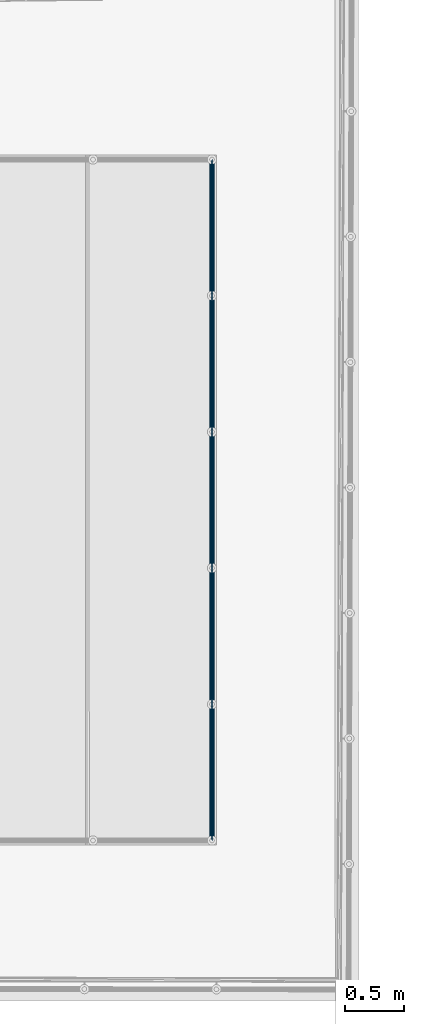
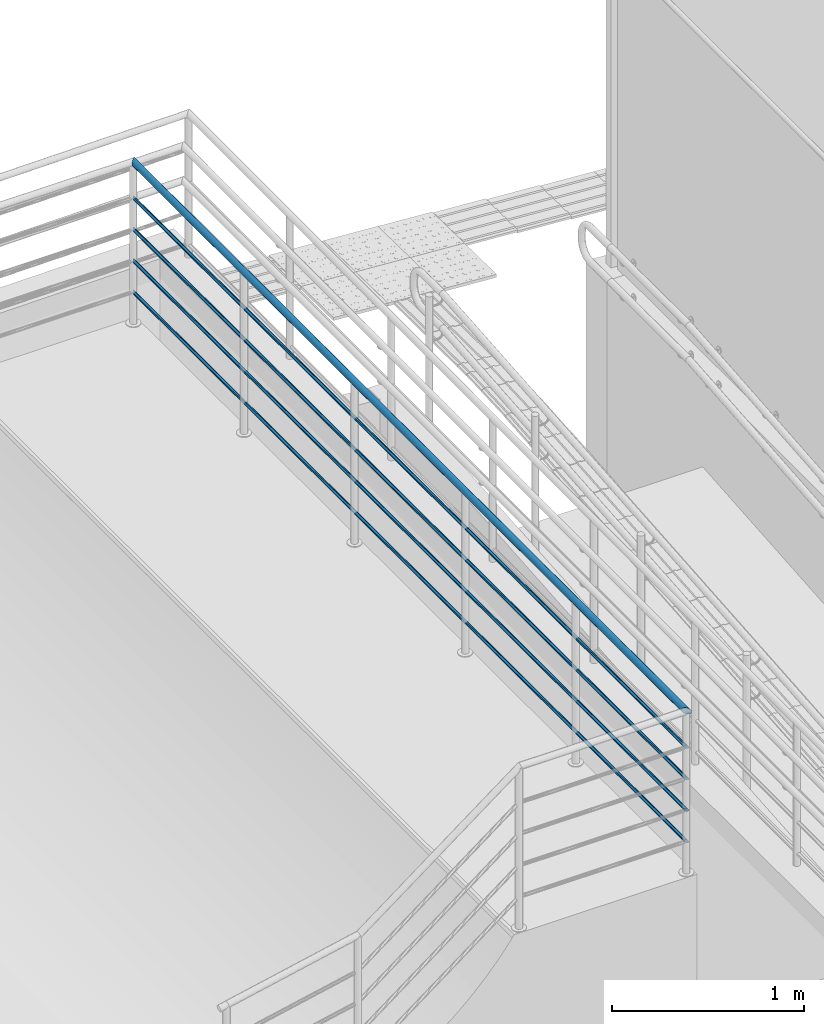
# One storey, part 46 of 237: 6 building element parts, 1 element without a shape of its own.
"""IFC2X3 building model written with IfcOpenShell, lengths in millimetres."""

from ifc_helpers import new_model, entity, si_unit, converted_unit, derived_unit, money_unit, direction, frame, origin_with_axes, place, context, subcontext, project, spatial, faceted_brep, material, type_object, element, aggregate, save


model = new_model("IFC2X3")

# Units and contexts
model_context = context("Model", 3, precision=0.01, world=origin_with_axes(), true_north=direction((0.0, 1.0)))
body_context = subcontext(model_context, "Body", "Model", "MODEL_VIEW")
ifc_project = project(units=[si_unit("LENGTHUNIT", "METRE", prefix="MILLI"), si_unit("AREAUNIT", "SQUARE_METRE"), si_unit("VOLUMEUNIT", "CUBIC_METRE"), converted_unit("PLANEANGLEUNIT", "DEGREE", entity("IfcPlaneAngleMeasure", 0.0174532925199), si_unit("PLANEANGLEUNIT", "RADIAN"), dimensions=[0, 0, 0, 0, 0, 0, 0]), money_unit("USD"), converted_unit("TIMEUNIT", "Year", entity("IfcTimeMeasure", 31556926.0), si_unit("TIMEUNIT", "SECOND"), dimensions=[0, 0, 1, 0, 0, 0, 0]), si_unit("MASSUNIT", "GRAM", prefix="KILO"), si_unit("THERMODYNAMICTEMPERATUREUNIT", "DEGREE_CELSIUS"), si_unit("LUMINOUSINTENSITYUNIT", "LUMEN"), si_unit("ENERGYUNIT", "JOULE", prefix="MEGA"), derived_unit("THERMALCONDUCTANCEUNIT", [(si_unit("POWERUNIT", "WATT"), 1), (si_unit("LENGTHUNIT", "METRE"), -1), (si_unit("THERMODYNAMICTEMPERATUREUNIT", "KELVIN"), -1)]), derived_unit("SPECIFICHEATCAPACITYUNIT", [(si_unit("ENERGYUNIT", "JOULE"), 1), (si_unit("MASSUNIT", "GRAM", prefix="KILO"), -1), (si_unit("THERMODYNAMICTEMPERATUREUNIT", "KELVIN"), -1)]), derived_unit("MASSDENSITYUNIT", [(si_unit("MASSUNIT", "GRAM", prefix="KILO"), 1), (si_unit("VOLUMEUNIT", "CUBIC_METRE"), -1)])], contexts=[model_context])

# Site, building, storey
site_placement = place(None, origin_with_axes())
site = spatial("IfcSite", under=ifc_project, at=site_placement, Name="Local", CompositionType="ELEMENT")
building_placement = place(site_placement, origin_with_axes())
building = spatial("IfcBuilding", under=site, at=building_placement, Name="Construção", CompositionType="ELEMENT")
storey_placement = place(building_placement, origin_with_axes())
storey = spatial("IfcBuildingStorey", under=building, at=storey_placement, Name="Pavimento Térreo", CompositionType="ELEMENT", Elevation=0.0)

# Railing, building element parts
railing_type = type_object("IfcRailingType", Name="Tipo de Guarda-Corpo", PredefinedType="NOTDEFINED")
railing_placement = place(storey_placement, frame((61612.4440926, 28006.4497128, -1265.99547451), z_axis=(0.0, 0.0, 1.0), x_axis=(-1.0, 0.0, 0.0)))
railing = element("IfcRailing", 1, at=railing_placement, inside=storey, type_object=railing_type, Name="Guarda-Corpo - 001", PredefinedType="NOTDEFINED")
ifc_material = material(Name="Aço - Inoxidável")
building_element_part_1_placement = place(railing_placement, origin_with_axes())
building_element_part_1 = element("IfcBuildingElementPart", 2, at=building_element_part_1_placement, material=ifc_material, Name="Aço - Inoxidável", context=body_context, shape_type="Brep", body=[
    faceted_brep([(-2790.00019056, -98.4865411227, 1938.88727796), (-2790.30403551, -98.182696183, 1942.36024151), (-2790.3038469, -5828.77972828, 1942.36024151), (-2790.00000198, -5828.47582909, 1938.88727796), (-2790.30403551, -98.182696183, 1935.41431441), (-2791.20633818, -97.2803935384, 1932.04687509), (-2792.67968257, -95.8070491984, 1928.88727796), (-2794.67930185, -93.8074299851, 1926.03152577), (-2797.1444386, -91.3422933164, 1923.5663891), (-2800.00019088, -88.4865411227, 1921.56676988), (-2803.15978812, -85.3269439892, 1920.09342554), (-2806.52722755, -81.959504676, 1919.1911229), (-2810.00019121, -78.4865411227, 1918.88727796), (-2813.47315488, -75.0135775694, 1919.1911229), (-2816.84059431, -71.6461382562, 1920.09342554), (-2820.00019154, -68.4865411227, 1921.56676988), (-2822.85594383, -65.630788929, 1923.5663891), (-2825.32108058, -63.1656522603, 1926.03152577), (-2827.32069986, -61.166033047, 1928.88727796), (-2828.79404425, -59.692688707, 1932.04687509), (-2829.69634692, -58.7903860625, 1935.41431441), (-2830.00019187, -58.4865411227, 1938.88727796), (-2829.69634692, -58.7903860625, 1942.36024151), (-2828.79404425, -59.692688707, 1945.72768083), (-2827.32069986, -61.166033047, 1948.88727796), (-2825.32108058, -63.1656522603, 1951.74303015), (-2822.85594383, -65.630788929, 1954.20816682), (-2820.00019154, -68.4865411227, 1956.20778604), (-2816.84059431, -71.6461382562, 1957.68113038), (-2813.47315488, -75.0135775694, 1958.58343302), (-2810.00019121, -78.4865411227, 1958.88727796), (-2806.52722755, -81.959504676, 1958.58343302), (-2803.15978812, -85.3269439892, 1957.68113038), (-2800.00019088, -88.4865411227, 1956.20778604), (-2797.1444386, -91.3422933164, 1954.20816682), (-2794.67930185, -93.8074299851, 1951.74303015), (-2792.67968257, -95.8070491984, 1948.88727796), (-2791.20633818, -97.2803935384, 1945.72768083), (-2791.20614952, -5829.68219202, 1945.72768083), (-2792.67949381, -5831.1557994, 1948.88727796), (-2794.67911296, -5833.15577561, 1951.74303015), (-2797.14424955, -5835.62135239, 1954.20816682), (-2800.00000165, -5838.47761443, 1956.20778604), (-2803.15959868, -5841.63777566, 1957.68113038), (-2806.52703788, -5845.00581618, 1958.58343302), (-2810.00000132, -5848.47939977, 1958.88727796), (-2813.47296476, -5851.95298337, 1958.58343302), (-2816.84040396, -5855.32102388, 1957.68113038), (-2820.00000099, -5858.48118511, 1956.20778604), (-2822.85575309, -5861.33744715, 1954.20816682), (-2825.32088967, -5863.80302393, 1951.74303015), (-2827.32050882, -5865.80300014, 1948.88727796), (-2828.79385311, -5867.27660752, 1945.72768083), (-2829.69615573, -5868.17907126, 1942.36024151), (-2830.00000066, -5868.48297045, 1938.88727796), (-2829.69615573, -5868.17907126, 1935.41431441), (-2828.79385311, -5867.27660752, 1932.04687509), (-2827.32050882, -5865.80300014, 1928.88727796), (-2825.32088967, -5863.80302393, 1926.03152577), (-2822.85575309, -5861.33744715, 1923.5663891), (-2820.00000099, -5858.48118511, 1921.56676988), (-2816.84040396, -5855.32102388, 1920.09342554), (-2813.47296476, -5851.95298337, 1919.1911229), (-2810.00000132, -5848.47939977, 1918.88727796), (-2806.52703788, -5845.00581618, 1919.1911229), (-2803.15959868, -5841.63777566, 1920.09342554), (-2800.00000165, -5838.47761443, 1921.56676988), (-2797.14424955, -5835.62135239, 1923.5663891), (-2794.67911296, -5833.15577561, 1926.03152577), (-2792.67949381, -5831.1557994, 1928.88727796), (-2791.20614952, -5829.68219202, 1932.04687509), (-2790.3038469, -5828.77972828, 1935.41431441)], [[[0, 1, 2, 3]], [[0, 4, 5, 6, 7, 8, 9, 10, 11, 12, 13, 14, 15, 16, 17, 18, 19, 20, 21, 22, 23, 24, 25, 26, 27, 28, 29, 30, 31, 32, 33, 34, 35, 36, 37, 1]], [[1, 37, 38, 2]], [[3, 2, 38, 39, 40, 41, 42, 43, 44, 45, 46, 47, 48, 49, 50, 51, 52, 53, 54, 55, 56, 57, 58, 59, 60, 61, 62, 63, 64, 65, 66, 67, 68, 69, 70, 71]], [[4, 0, 3, 71]], [[5, 4, 71, 70]], [[6, 5, 70, 69]], [[7, 6, 69, 68]], [[8, 7, 68, 67]], [[9, 8, 67, 66]], [[10, 9, 66, 65]], [[11, 10, 65, 64]], [[12, 11, 64, 63]], [[13, 12, 63, 62]], [[14, 13, 62, 61]], [[15, 14, 61, 60]], [[16, 15, 60, 59]], [[17, 16, 59, 58]], [[18, 17, 58, 57]], [[19, 18, 57, 56]], [[20, 19, 56, 55]], [[21, 20, 55, 54]], [[22, 21, 54, 53]], [[23, 22, 53, 52]], [[24, 23, 52, 51]], [[25, 24, 51, 50]], [[26, 25, 50, 49]], [[27, 26, 49, 48]], [[28, 27, 48, 47]], [[29, 28, 47, 46]], [[30, 29, 46, 45]], [[31, 30, 45, 44]], [[32, 31, 44, 43]], [[33, 32, 43, 42]], [[34, 33, 42, 41]], [[35, 34, 41, 40]], [[36, 35, 40, 39]], [[37, 36, 39, 38]]]),
])
building_element_part_2_placement = place(railing_placement, origin_with_axes())
building_element_part_2 = element("IfcBuildingElementPart", 3, at=building_element_part_2_placement, material=ifc_material, Name="Aço - Inoxidável", context=body_context, shape_type="Brep", body=[
    faceted_brep([(-2800.00019088, -88.4865411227, 1108.88727796), (-2800.15211336, -88.3346186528, 1110.62375974), (-2800.15192411, -5838.62956403, 1110.62375974), (-2800.00000165, -5838.47761443, 1108.88727796), (-2800.15211336, -88.3346186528, 1107.15079618), (-2800.6032647, -87.8834673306, 1105.46707653), (-2801.33993689, -87.1467951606, 1103.88727796), (-2802.33974653, -86.1469855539, 1102.45940186), (-2803.57231491, -84.9144172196, 1101.22683353), (-2805.00019105, -83.4865411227, 1100.22702392), (-2806.57998967, -81.906742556, 1099.49035175), (-2808.26370938, -80.2230228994, 1099.03920043), (-2810.00019121, -78.4865411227, 1098.88727796), (-2811.73667305, -76.750059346, 1099.03920043), (-2813.42039276, -75.0663396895, 1099.49035175), (-2815.00019138, -73.4865411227, 1100.22702392), (-2816.42806752, -72.0586650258, 1101.22683353), (-2817.6606359, -70.8260966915, 1102.45940186), (-2818.66044554, -69.8262870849, 1103.88727796), (-2819.39711773, -69.0896149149, 1105.46707653), (-2819.84826907, -68.6384635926, 1107.15079618), (-2820.00019154, -68.4865411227, 1108.88727796), (-2819.84826907, -68.6384635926, 1110.62375974), (-2819.39711773, -69.0896149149, 1112.30747939), (-2818.66044554, -69.8262870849, 1113.88727796), (-2817.6606359, -70.8260966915, 1115.31515406), (-2816.42806752, -72.0586650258, 1116.54772239), (-2815.00019138, -73.4865411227, 1117.547532), (-2813.42039276, -75.0663396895, 1118.28420417), (-2811.73667305, -76.750059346, 1118.73535549), (-2810.00019121, -78.4865411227, 1118.88727796), (-2808.26370938, -80.2230228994, 1118.73535549), (-2806.57998967, -81.906742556, 1118.28420417), (-2805.00019105, -83.4865411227, 1117.547532), (-2803.57231491, -84.9144172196, 1116.54772239), (-2802.33974653, -86.1469855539, 1115.31515406), (-2801.33993689, -87.1467951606, 1113.88727796), (-2800.6032647, -87.8834673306, 1112.30747939), (-2800.60307542, -5839.08079589, 1112.30747939), (-2801.33974756, -5839.81759958, 1113.88727796), (-2802.33955714, -5840.81758769, 1115.31515406), (-2803.57212543, -5842.05037608, 1116.54772239), (-2805.00000148, -5843.4785071, 1117.547532), (-2806.5798, -5845.05858772, 1118.28420417), (-2808.2635196, -5846.74260797, 1118.73535549), (-2810.00000132, -5848.47939977, 1118.88727796), (-2811.73648304, -5850.21619157, 1118.73535549), (-2813.42020264, -5851.90021183, 1118.28420417), (-2815.00000115, -5853.48029244, 1117.547532), (-2816.4278772, -5854.90842346, 1116.54772239), (-2817.6604455, -5856.14121185, 1115.31515406), (-2818.66025507, -5857.14119996, 1113.88727796), (-2819.39692722, -5857.87800365, 1112.30747939), (-2819.84807852, -5858.32923552, 1110.62375974), (-2820.00000099, -5858.48118511, 1108.88727796), (-2819.84807852, -5858.32923552, 1107.15079618), (-2819.39692722, -5857.87800365, 1105.46707653), (-2818.66025507, -5857.14119996, 1103.88727796), (-2817.6604455, -5856.14121185, 1102.45940186), (-2816.4278772, -5854.90842346, 1101.22683353), (-2815.00000115, -5853.48029244, 1100.22702392), (-2813.42020264, -5851.90021183, 1099.49035175), (-2811.73648304, -5850.21619157, 1099.03920043), (-2810.00000132, -5848.47939977, 1098.88727796), (-2808.2635196, -5846.74260797, 1099.03920043), (-2806.5798, -5845.05858772, 1099.49035175), (-2805.00000148, -5843.4785071, 1100.22702392), (-2803.57212543, -5842.05037608, 1101.22683353), (-2802.33955714, -5840.81758769, 1102.45940186), (-2801.33974756, -5839.81759958, 1103.88727796), (-2800.60307542, -5839.08079589, 1105.46707653), (-2800.15192411, -5838.62956403, 1107.15079618)], [[[0, 1, 2, 3]], [[0, 4, 5, 6, 7, 8, 9, 10, 11, 12, 13, 14, 15, 16, 17, 18, 19, 20, 21, 22, 23, 24, 25, 26, 27, 28, 29, 30, 31, 32, 33, 34, 35, 36, 37, 1]], [[1, 37, 38, 2]], [[3, 2, 38, 39, 40, 41, 42, 43, 44, 45, 46, 47, 48, 49, 50, 51, 52, 53, 54, 55, 56, 57, 58, 59, 60, 61, 62, 63, 64, 65, 66, 67, 68, 69, 70, 71]], [[4, 0, 3, 71]], [[5, 4, 71, 70]], [[6, 5, 70, 69]], [[7, 6, 69, 68]], [[8, 7, 68, 67]], [[9, 8, 67, 66]], [[10, 9, 66, 65]], [[11, 10, 65, 64]], [[12, 11, 64, 63]], [[13, 12, 63, 62]], [[14, 13, 62, 61]], [[15, 14, 61, 60]], [[16, 15, 60, 59]], [[17, 16, 59, 58]], [[18, 17, 58, 57]], [[19, 18, 57, 56]], [[20, 19, 56, 55]], [[21, 20, 55, 54]], [[22, 21, 54, 53]], [[23, 22, 53, 52]], [[24, 23, 52, 51]], [[25, 24, 51, 50]], [[26, 25, 50, 49]], [[27, 26, 49, 48]], [[28, 27, 48, 47]], [[29, 28, 47, 46]], [[30, 29, 46, 45]], [[31, 30, 45, 44]], [[32, 31, 44, 43]], [[33, 32, 43, 42]], [[34, 33, 42, 41]], [[35, 34, 41, 40]], [[36, 35, 40, 39]], [[37, 36, 39, 38]]]),
])
building_element_part_3_placement = place(railing_placement, origin_with_axes())
building_element_part_3 = element("IfcBuildingElementPart", 4, at=building_element_part_3_placement, material=ifc_material, Name="Aço - Inoxidável", context=body_context, shape_type="Brep", body=[
    faceted_brep([(-2800.00019088, -88.4865411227, 1308.88727796), (-2800.15211336, -88.3346186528, 1310.62375974), (-2800.15192411, -5838.62956403, 1310.62375974), (-2800.00000165, -5838.47761443, 1308.88727796), (-2800.15211336, -88.3346186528, 1307.15079618), (-2800.6032647, -87.8834673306, 1305.46707653), (-2801.33993689, -87.1467951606, 1303.88727796), (-2802.33974653, -86.1469855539, 1302.45940186), (-2803.57231491, -84.9144172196, 1301.22683353), (-2805.00019105, -83.4865411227, 1300.22702392), (-2806.57998967, -81.906742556, 1299.49035175), (-2808.26370938, -80.2230228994, 1299.03920043), (-2810.00019121, -78.4865411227, 1298.88727796), (-2811.73667305, -76.750059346, 1299.03920043), (-2813.42039276, -75.0663396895, 1299.49035175), (-2815.00019138, -73.4865411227, 1300.22702392), (-2816.42806752, -72.0586650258, 1301.22683353), (-2817.6606359, -70.8260966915, 1302.45940186), (-2818.66044554, -69.8262870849, 1303.88727796), (-2819.39711773, -69.0896149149, 1305.46707653), (-2819.84826907, -68.6384635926, 1307.15079618), (-2820.00019154, -68.4865411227, 1308.88727796), (-2819.84826907, -68.6384635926, 1310.62375974), (-2819.39711773, -69.0896149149, 1312.30747939), (-2818.66044554, -69.8262870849, 1313.88727796), (-2817.6606359, -70.8260966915, 1315.31515406), (-2816.42806752, -72.0586650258, 1316.54772239), (-2815.00019138, -73.4865411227, 1317.547532), (-2813.42039276, -75.0663396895, 1318.28420417), (-2811.73667305, -76.750059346, 1318.73535549), (-2810.00019121, -78.4865411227, 1318.88727796), (-2808.26370938, -80.2230228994, 1318.73535549), (-2806.57998967, -81.906742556, 1318.28420417), (-2805.00019105, -83.4865411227, 1317.547532), (-2803.57231491, -84.9144172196, 1316.54772239), (-2802.33974653, -86.1469855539, 1315.31515406), (-2801.33993689, -87.1467951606, 1313.88727796), (-2800.6032647, -87.8834673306, 1312.30747939), (-2800.60307542, -5839.08079589, 1312.30747939), (-2801.33974756, -5839.81759958, 1313.88727796), (-2802.33955714, -5840.81758769, 1315.31515406), (-2803.57212543, -5842.05037608, 1316.54772239), (-2805.00000148, -5843.4785071, 1317.547532), (-2806.5798, -5845.05858772, 1318.28420417), (-2808.2635196, -5846.74260797, 1318.73535549), (-2810.00000132, -5848.47939977, 1318.88727796), (-2811.73648304, -5850.21619157, 1318.73535549), (-2813.42020264, -5851.90021183, 1318.28420417), (-2815.00000115, -5853.48029244, 1317.547532), (-2816.4278772, -5854.90842346, 1316.54772239), (-2817.6604455, -5856.14121185, 1315.31515406), (-2818.66025507, -5857.14119996, 1313.88727796), (-2819.39692722, -5857.87800365, 1312.30747939), (-2819.84807852, -5858.32923552, 1310.62375974), (-2820.00000099, -5858.48118511, 1308.88727796), (-2819.84807852, -5858.32923552, 1307.15079618), (-2819.39692722, -5857.87800365, 1305.46707653), (-2818.66025507, -5857.14119996, 1303.88727796), (-2817.6604455, -5856.14121185, 1302.45940186), (-2816.4278772, -5854.90842346, 1301.22683353), (-2815.00000115, -5853.48029244, 1300.22702392), (-2813.42020264, -5851.90021183, 1299.49035175), (-2811.73648304, -5850.21619157, 1299.03920043), (-2810.00000132, -5848.47939977, 1298.88727796), (-2808.2635196, -5846.74260797, 1299.03920043), (-2806.5798, -5845.05858772, 1299.49035175), (-2805.00000148, -5843.4785071, 1300.22702392), (-2803.57212543, -5842.05037608, 1301.22683353), (-2802.33955714, -5840.81758769, 1302.45940186), (-2801.33974756, -5839.81759958, 1303.88727796), (-2800.60307542, -5839.08079589, 1305.46707653), (-2800.15192411, -5838.62956403, 1307.15079618)], [[[0, 1, 2, 3]], [[0, 4, 5, 6, 7, 8, 9, 10, 11, 12, 13, 14, 15, 16, 17, 18, 19, 20, 21, 22, 23, 24, 25, 26, 27, 28, 29, 30, 31, 32, 33, 34, 35, 36, 37, 1]], [[1, 37, 38, 2]], [[3, 2, 38, 39, 40, 41, 42, 43, 44, 45, 46, 47, 48, 49, 50, 51, 52, 53, 54, 55, 56, 57, 58, 59, 60, 61, 62, 63, 64, 65, 66, 67, 68, 69, 70, 71]], [[4, 0, 3, 71]], [[5, 4, 71, 70]], [[6, 5, 70, 69]], [[7, 6, 69, 68]], [[8, 7, 68, 67]], [[9, 8, 67, 66]], [[10, 9, 66, 65]], [[11, 10, 65, 64]], [[12, 11, 64, 63]], [[13, 12, 63, 62]], [[14, 13, 62, 61]], [[15, 14, 61, 60]], [[16, 15, 60, 59]], [[17, 16, 59, 58]], [[18, 17, 58, 57]], [[19, 18, 57, 56]], [[20, 19, 56, 55]], [[21, 20, 55, 54]], [[22, 21, 54, 53]], [[23, 22, 53, 52]], [[24, 23, 52, 51]], [[25, 24, 51, 50]], [[26, 25, 50, 49]], [[27, 26, 49, 48]], [[28, 27, 48, 47]], [[29, 28, 47, 46]], [[30, 29, 46, 45]], [[31, 30, 45, 44]], [[32, 31, 44, 43]], [[33, 32, 43, 42]], [[34, 33, 42, 41]], [[35, 34, 41, 40]], [[36, 35, 40, 39]], [[37, 36, 39, 38]]]),
])
building_element_part_4_placement = place(railing_placement, origin_with_axes())
building_element_part_4 = element("IfcBuildingElementPart", 5, at=building_element_part_4_placement, material=ifc_material, Name="Aço - Inoxidável", context=body_context, shape_type="Brep", body=[
    faceted_brep([(-2800.00019088, -88.4865411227, 1308.88727796), (-2800.15211336, -88.3346186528, 1310.62375974), (-2800.15192411, -5838.62956403, 1310.62375974), (-2800.00000165, -5838.47761443, 1308.88727796), (-2800.15211336, -88.3346186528, 1307.15079618), (-2800.6032647, -87.8834673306, 1305.46707653), (-2801.33993689, -87.1467951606, 1303.88727796), (-2802.33974653, -86.1469855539, 1302.45940186), (-2803.57231491, -84.9144172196, 1301.22683353), (-2805.00019105, -83.4865411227, 1300.22702392), (-2806.57998967, -81.906742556, 1299.49035175), (-2808.26370938, -80.2230228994, 1299.03920043), (-2810.00019121, -78.4865411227, 1298.88727796), (-2811.73667305, -76.750059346, 1299.03920043), (-2813.42039276, -75.0663396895, 1299.49035175), (-2815.00019138, -73.4865411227, 1300.22702392), (-2816.42806752, -72.0586650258, 1301.22683353), (-2817.6606359, -70.8260966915, 1302.45940186), (-2818.66044554, -69.8262870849, 1303.88727796), (-2819.39711773, -69.0896149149, 1305.46707653), (-2819.84826907, -68.6384635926, 1307.15079618), (-2820.00019154, -68.4865411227, 1308.88727796), (-2819.84826907, -68.6384635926, 1310.62375974), (-2819.39711773, -69.0896149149, 1312.30747939), (-2818.66044554, -69.8262870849, 1313.88727796), (-2817.6606359, -70.8260966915, 1315.31515406), (-2816.42806752, -72.0586650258, 1316.54772239), (-2815.00019138, -73.4865411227, 1317.547532), (-2813.42039276, -75.0663396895, 1318.28420417), (-2811.73667305, -76.750059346, 1318.73535549), (-2810.00019121, -78.4865411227, 1318.88727796), (-2808.26370938, -80.2230228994, 1318.73535549), (-2806.57998967, -81.906742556, 1318.28420417), (-2805.00019105, -83.4865411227, 1317.547532), (-2803.57231491, -84.9144172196, 1316.54772239), (-2802.33974653, -86.1469855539, 1315.31515406), (-2801.33993689, -87.1467951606, 1313.88727796), (-2800.6032647, -87.8834673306, 1312.30747939), (-2800.60307542, -5839.08079589, 1312.30747939), (-2801.33974756, -5839.81759958, 1313.88727796), (-2802.33955714, -5840.81758769, 1315.31515406), (-2803.57212543, -5842.05037608, 1316.54772239), (-2805.00000148, -5843.4785071, 1317.547532), (-2806.5798, -5845.05858772, 1318.28420417), (-2808.2635196, -5846.74260797, 1318.73535549), (-2810.00000132, -5848.47939977, 1318.88727796), (-2811.73648304, -5850.21619157, 1318.73535549), (-2813.42020264, -5851.90021183, 1318.28420417), (-2815.00000115, -5853.48029244, 1317.547532), (-2816.4278772, -5854.90842346, 1316.54772239), (-2817.6604455, -5856.14121185, 1315.31515406), (-2818.66025507, -5857.14119996, 1313.88727796), (-2819.39692722, -5857.87800365, 1312.30747939), (-2819.84807852, -5858.32923552, 1310.62375974), (-2820.00000099, -5858.48118511, 1308.88727796), (-2819.84807852, -5858.32923552, 1307.15079618), (-2819.39692722, -5857.87800365, 1305.46707653), (-2818.66025507, -5857.14119996, 1303.88727796), (-2817.6604455, -5856.14121185, 1302.45940186), (-2816.4278772, -5854.90842346, 1301.22683353), (-2815.00000115, -5853.48029244, 1300.22702392), (-2813.42020264, -5851.90021183, 1299.49035175), (-2811.73648304, -5850.21619157, 1299.03920043), (-2810.00000132, -5848.47939977, 1298.88727796), (-2808.2635196, -5846.74260797, 1299.03920043), (-2806.5798, -5845.05858772, 1299.49035175), (-2805.00000148, -5843.4785071, 1300.22702392), (-2803.57212543, -5842.05037608, 1301.22683353), (-2802.33955714, -5840.81758769, 1302.45940186), (-2801.33974756, -5839.81759958, 1303.88727796), (-2800.60307542, -5839.08079589, 1305.46707653), (-2800.15192411, -5838.62956403, 1307.15079618)], [[[0, 1, 2, 3]], [[0, 4, 5, 6, 7, 8, 9, 10, 11, 12, 13, 14, 15, 16, 17, 18, 19, 20, 21, 22, 23, 24, 25, 26, 27, 28, 29, 30, 31, 32, 33, 34, 35, 36, 37, 1]], [[1, 37, 38, 2]], [[3, 2, 38, 39, 40, 41, 42, 43, 44, 45, 46, 47, 48, 49, 50, 51, 52, 53, 54, 55, 56, 57, 58, 59, 60, 61, 62, 63, 64, 65, 66, 67, 68, 69, 70, 71]], [[4, 0, 3, 71]], [[5, 4, 71, 70]], [[6, 5, 70, 69]], [[7, 6, 69, 68]], [[8, 7, 68, 67]], [[9, 8, 67, 66]], [[10, 9, 66, 65]], [[11, 10, 65, 64]], [[12, 11, 64, 63]], [[13, 12, 63, 62]], [[14, 13, 62, 61]], [[15, 14, 61, 60]], [[16, 15, 60, 59]], [[17, 16, 59, 58]], [[18, 17, 58, 57]], [[19, 18, 57, 56]], [[20, 19, 56, 55]], [[21, 20, 55, 54]], [[22, 21, 54, 53]], [[23, 22, 53, 52]], [[24, 23, 52, 51]], [[25, 24, 51, 50]], [[26, 25, 50, 49]], [[27, 26, 49, 48]], [[28, 27, 48, 47]], [[29, 28, 47, 46]], [[30, 29, 46, 45]], [[31, 30, 45, 44]], [[32, 31, 44, 43]], [[33, 32, 43, 42]], [[34, 33, 42, 41]], [[35, 34, 41, 40]], [[36, 35, 40, 39]], [[37, 36, 39, 38]]]),
])
building_element_part_5_placement = place(railing_placement, origin_with_axes())
building_element_part_5 = element("IfcBuildingElementPart", 6, at=building_element_part_5_placement, material=ifc_material, Name="Aço - Inoxidável", context=body_context, shape_type="Brep", body=[
    faceted_brep([(-2800.00019088, -88.4865411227, 1508.88727796), (-2800.15211336, -88.3346186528, 1510.62375974), (-2800.15192411, -5838.62956403, 1510.62375974), (-2800.00000165, -5838.47761443, 1508.88727796), (-2800.15211336, -88.3346186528, 1507.15079618), (-2800.6032647, -87.8834673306, 1505.46707653), (-2801.33993689, -87.1467951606, 1503.88727796), (-2802.33974653, -86.1469855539, 1502.45940186), (-2803.57231491, -84.9144172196, 1501.22683353), (-2805.00019105, -83.4865411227, 1500.22702392), (-2806.57998967, -81.906742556, 1499.49035175), (-2808.26370938, -80.2230228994, 1499.03920043), (-2810.00019121, -78.4865411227, 1498.88727796), (-2811.73667305, -76.750059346, 1499.03920043), (-2813.42039276, -75.0663396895, 1499.49035175), (-2815.00019138, -73.4865411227, 1500.22702392), (-2816.42806752, -72.0586650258, 1501.22683353), (-2817.6606359, -70.8260966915, 1502.45940186), (-2818.66044554, -69.8262870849, 1503.88727796), (-2819.39711773, -69.0896149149, 1505.46707653), (-2819.84826907, -68.6384635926, 1507.15079618), (-2820.00019154, -68.4865411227, 1508.88727796), (-2819.84826907, -68.6384635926, 1510.62375974), (-2819.39711773, -69.0896149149, 1512.30747939), (-2818.66044554, -69.8262870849, 1513.88727796), (-2817.6606359, -70.8260966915, 1515.31515406), (-2816.42806752, -72.0586650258, 1516.54772239), (-2815.00019138, -73.4865411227, 1517.547532), (-2813.42039276, -75.0663396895, 1518.28420417), (-2811.73667305, -76.750059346, 1518.73535549), (-2810.00019121, -78.4865411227, 1518.88727796), (-2808.26370938, -80.2230228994, 1518.73535549), (-2806.57998967, -81.906742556, 1518.28420417), (-2805.00019105, -83.4865411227, 1517.547532), (-2803.57231491, -84.9144172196, 1516.54772239), (-2802.33974653, -86.1469855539, 1515.31515406), (-2801.33993689, -87.1467951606, 1513.88727796), (-2800.6032647, -87.8834673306, 1512.30747939), (-2800.60307542, -5839.08079589, 1512.30747939), (-2801.33974756, -5839.81759958, 1513.88727796), (-2802.33955714, -5840.81758769, 1515.31515406), (-2803.57212543, -5842.05037608, 1516.54772239), (-2805.00000148, -5843.4785071, 1517.547532), (-2806.5798, -5845.05858772, 1518.28420417), (-2808.2635196, -5846.74260797, 1518.73535549), (-2810.00000132, -5848.47939977, 1518.88727796), (-2811.73648304, -5850.21619157, 1518.73535549), (-2813.42020264, -5851.90021183, 1518.28420417), (-2815.00000115, -5853.48029244, 1517.547532), (-2816.4278772, -5854.90842346, 1516.54772239), (-2817.6604455, -5856.14121185, 1515.31515406), (-2818.66025507, -5857.14119996, 1513.88727796), (-2819.39692722, -5857.87800365, 1512.30747939), (-2819.84807852, -5858.32923552, 1510.62375974), (-2820.00000099, -5858.48118511, 1508.88727796), (-2819.84807852, -5858.32923552, 1507.15079618), (-2819.39692722, -5857.87800365, 1505.46707653), (-2818.66025507, -5857.14119996, 1503.88727796), (-2817.6604455, -5856.14121185, 1502.45940186), (-2816.4278772, -5854.90842346, 1501.22683353), (-2815.00000115, -5853.48029244, 1500.22702392), (-2813.42020264, -5851.90021183, 1499.49035175), (-2811.73648304, -5850.21619157, 1499.03920043), (-2810.00000132, -5848.47939977, 1498.88727796), (-2808.2635196, -5846.74260797, 1499.03920043), (-2806.5798, -5845.05858772, 1499.49035175), (-2805.00000148, -5843.4785071, 1500.22702392), (-2803.57212543, -5842.05037608, 1501.22683353), (-2802.33955714, -5840.81758769, 1502.45940186), (-2801.33974756, -5839.81759958, 1503.88727796), (-2800.60307542, -5839.08079589, 1505.46707653), (-2800.15192411, -5838.62956403, 1507.15079618)], [[[0, 1, 2, 3]], [[0, 4, 5, 6, 7, 8, 9, 10, 11, 12, 13, 14, 15, 16, 17, 18, 19, 20, 21, 22, 23, 24, 25, 26, 27, 28, 29, 30, 31, 32, 33, 34, 35, 36, 37, 1]], [[1, 37, 38, 2]], [[3, 2, 38, 39, 40, 41, 42, 43, 44, 45, 46, 47, 48, 49, 50, 51, 52, 53, 54, 55, 56, 57, 58, 59, 60, 61, 62, 63, 64, 65, 66, 67, 68, 69, 70, 71]], [[4, 0, 3, 71]], [[5, 4, 71, 70]], [[6, 5, 70, 69]], [[7, 6, 69, 68]], [[8, 7, 68, 67]], [[9, 8, 67, 66]], [[10, 9, 66, 65]], [[11, 10, 65, 64]], [[12, 11, 64, 63]], [[13, 12, 63, 62]], [[14, 13, 62, 61]], [[15, 14, 61, 60]], [[16, 15, 60, 59]], [[17, 16, 59, 58]], [[18, 17, 58, 57]], [[19, 18, 57, 56]], [[20, 19, 56, 55]], [[21, 20, 55, 54]], [[22, 21, 54, 53]], [[23, 22, 53, 52]], [[24, 23, 52, 51]], [[25, 24, 51, 50]], [[26, 25, 50, 49]], [[27, 26, 49, 48]], [[28, 27, 48, 47]], [[29, 28, 47, 46]], [[30, 29, 46, 45]], [[31, 30, 45, 44]], [[32, 31, 44, 43]], [[33, 32, 43, 42]], [[34, 33, 42, 41]], [[35, 34, 41, 40]], [[36, 35, 40, 39]], [[37, 36, 39, 38]]]),
])
building_element_part_6_placement = place(railing_placement, origin_with_axes())
building_element_part_6 = element("IfcBuildingElementPart", 7, at=building_element_part_6_placement, material=ifc_material, Name="Aço - Inoxidável", context=body_context, shape_type="Brep", body=[
    faceted_brep([(-2800.00019088, -88.4865411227, 1708.88727796), (-2800.15211336, -88.3346186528, 1710.62375974), (-2800.15192411, -5838.62956403, 1710.62375974), (-2800.00000165, -5838.47761443, 1708.88727796), (-2800.15211336, -88.3346186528, 1707.15079618), (-2800.6032647, -87.8834673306, 1705.46707653), (-2801.33993689, -87.1467951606, 1703.88727796), (-2802.33974653, -86.1469855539, 1702.45940186), (-2803.57231491, -84.9144172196, 1701.22683353), (-2805.00019105, -83.4865411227, 1700.22702392), (-2806.57998967, -81.906742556, 1699.49035175), (-2808.26370938, -80.2230228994, 1699.03920043), (-2810.00019121, -78.4865411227, 1698.88727796), (-2811.73667305, -76.750059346, 1699.03920043), (-2813.42039276, -75.0663396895, 1699.49035175), (-2815.00019138, -73.4865411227, 1700.22702392), (-2816.42806752, -72.0586650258, 1701.22683353), (-2817.6606359, -70.8260966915, 1702.45940186), (-2818.66044554, -69.8262870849, 1703.88727796), (-2819.39711773, -69.0896149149, 1705.46707653), (-2819.84826907, -68.6384635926, 1707.15079618), (-2820.00019154, -68.4865411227, 1708.88727796), (-2819.84826907, -68.6384635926, 1710.62375974), (-2819.39711773, -69.0896149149, 1712.30747939), (-2818.66044554, -69.8262870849, 1713.88727796), (-2817.6606359, -70.8260966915, 1715.31515406), (-2816.42806752, -72.0586650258, 1716.54772239), (-2815.00019138, -73.4865411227, 1717.547532), (-2813.42039276, -75.0663396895, 1718.28420417), (-2811.73667305, -76.750059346, 1718.73535549), (-2810.00019121, -78.4865411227, 1718.88727796), (-2808.26370938, -80.2230228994, 1718.73535549), (-2806.57998967, -81.906742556, 1718.28420417), (-2805.00019105, -83.4865411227, 1717.547532), (-2803.57231491, -84.9144172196, 1716.54772239), (-2802.33974653, -86.1469855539, 1715.31515406), (-2801.33993689, -87.1467951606, 1713.88727796), (-2800.6032647, -87.8834673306, 1712.30747939), (-2800.60307542, -5839.08079589, 1712.30747939), (-2801.33974756, -5839.81759958, 1713.88727796), (-2802.33955714, -5840.81758769, 1715.31515406), (-2803.57212543, -5842.05037608, 1716.54772239), (-2805.00000148, -5843.4785071, 1717.547532), (-2806.5798, -5845.05858772, 1718.28420417), (-2808.2635196, -5846.74260797, 1718.73535549), (-2810.00000132, -5848.47939977, 1718.88727796), (-2811.73648304, -5850.21619157, 1718.73535549), (-2813.42020264, -5851.90021183, 1718.28420417), (-2815.00000115, -5853.48029244, 1717.547532), (-2816.4278772, -5854.90842346, 1716.54772239), (-2817.6604455, -5856.14121185, 1715.31515406), (-2818.66025507, -5857.14119996, 1713.88727796), (-2819.39692722, -5857.87800365, 1712.30747939), (-2819.84807852, -5858.32923552, 1710.62375974), (-2820.00000099, -5858.48118511, 1708.88727796), (-2819.84807852, -5858.32923552, 1707.15079618), (-2819.39692722, -5857.87800365, 1705.46707653), (-2818.66025507, -5857.14119996, 1703.88727796), (-2817.6604455, -5856.14121185, 1702.45940186), (-2816.4278772, -5854.90842346, 1701.22683353), (-2815.00000115, -5853.48029244, 1700.22702392), (-2813.42020264, -5851.90021183, 1699.49035175), (-2811.73648304, -5850.21619157, 1699.03920043), (-2810.00000132, -5848.47939977, 1698.88727796), (-2808.2635196, -5846.74260797, 1699.03920043), (-2806.5798, -5845.05858772, 1699.49035175), (-2805.00000148, -5843.4785071, 1700.22702392), (-2803.57212543, -5842.05037608, 1701.22683353), (-2802.33955714, -5840.81758769, 1702.45940186), (-2801.33974756, -5839.81759958, 1703.88727796), (-2800.60307542, -5839.08079589, 1705.46707653), (-2800.15192411, -5838.62956403, 1707.15079618)], [[[0, 1, 2, 3]], [[0, 4, 5, 6, 7, 8, 9, 10, 11, 12, 13, 14, 15, 16, 17, 18, 19, 20, 21, 22, 23, 24, 25, 26, 27, 28, 29, 30, 31, 32, 33, 34, 35, 36, 37, 1]], [[1, 37, 38, 2]], [[3, 2, 38, 39, 40, 41, 42, 43, 44, 45, 46, 47, 48, 49, 50, 51, 52, 53, 54, 55, 56, 57, 58, 59, 60, 61, 62, 63, 64, 65, 66, 67, 68, 69, 70, 71]], [[4, 0, 3, 71]], [[5, 4, 71, 70]], [[6, 5, 70, 69]], [[7, 6, 69, 68]], [[8, 7, 68, 67]], [[9, 8, 67, 66]], [[10, 9, 66, 65]], [[11, 10, 65, 64]], [[12, 11, 64, 63]], [[13, 12, 63, 62]], [[14, 13, 62, 61]], [[15, 14, 61, 60]], [[16, 15, 60, 59]], [[17, 16, 59, 58]], [[18, 17, 58, 57]], [[19, 18, 57, 56]], [[20, 19, 56, 55]], [[21, 20, 55, 54]], [[22, 21, 54, 53]], [[23, 22, 53, 52]], [[24, 23, 52, 51]], [[25, 24, 51, 50]], [[26, 25, 50, 49]], [[27, 26, 49, 48]], [[28, 27, 48, 47]], [[29, 28, 47, 46]], [[30, 29, 46, 45]], [[31, 30, 45, 44]], [[32, 31, 44, 43]], [[33, 32, 43, 42]], [[34, 33, 42, 41]], [[35, 34, 41, 40]], [[36, 35, 40, 39]], [[37, 36, 39, 38]]]),
])
aggregate(railing, [building_element_part_1, building_element_part_2, building_element_part_3, building_element_part_4, building_element_part_5, building_element_part_6])

save(model, "model.ifc")
